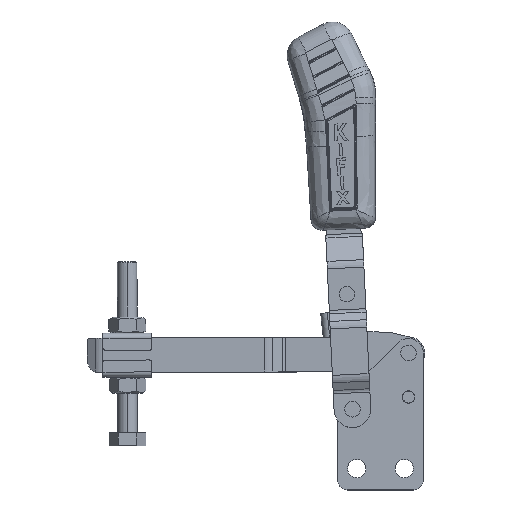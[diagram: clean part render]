
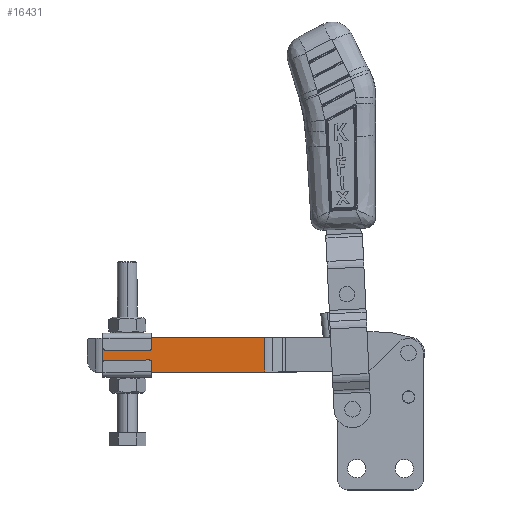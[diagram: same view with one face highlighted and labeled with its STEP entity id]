
A CAD part, top view. The second image highlights one B-rep face of the part: STEP entity #16431.
In plain terms, the highlighted planar face has unit normal (0, 0, 1) as drawn and (1, 0, 0) by its records, which use the part's own axes.
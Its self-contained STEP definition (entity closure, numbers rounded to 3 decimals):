
#636 = VERTEX_POINT ( 'NONE', #23842 ) ;
#1957 = DIRECTION ( 'NONE',  ( 0., 0., -1. ) ) ;
#2859 = CARTESIAN_POINT ( 'NONE',  ( 6.006, 22.76, 6.35 ) ) ;
#3509 = LINE ( 'NONE', #19727, #22526 ) ;
#3654 = VECTOR ( 'NONE', #10312, 1000. ) ;
#4943 = DIRECTION ( 'NONE',  ( 0., 1., 0. ) ) ;
#5798 = VERTEX_POINT ( 'NONE', #12346 ) ;
#5838 = FACE_OUTER_BOUND ( 'NONE', #19993, .T. ) ;
#6741 = VECTOR ( 'NONE', #1957, 1000. ) ;
#9995 = CARTESIAN_POINT ( 'NONE',  ( 6.006, 43.667, -7.65 ) ) ;
#10312 = DIRECTION ( 'NONE',  ( 0., 0., -1. ) ) ;
#10616 = CARTESIAN_POINT ( 'NONE',  ( 6.006, 22.76, -7.65 ) ) ;
#10743 = ORIENTED_EDGE ( 'NONE', *, *, #12139, .T. ) ;
#12139 = EDGE_CURVE ( 'NONE', #22073, #5798, #3509, .T. ) ;
#12170 = LINE ( 'NONE', #13038, #6741 ) ;
#12346 = CARTESIAN_POINT ( 'NONE',  ( 6.006, -43.377, 6.35 ) ) ;
#13038 = CARTESIAN_POINT ( 'NONE',  ( 6.006, -43.377, 6.35 ) ) ;
#14026 = CARTESIAN_POINT ( 'NONE',  ( 6.006, 41.2, 6.35 ) ) ;
#14254 = CARTESIAN_POINT ( 'NONE',  ( 6.006, 22.76, 6.35 ) ) ;
#15255 = EDGE_CURVE ( 'NONE', #5798, #636, #12170, .T. ) ;
#15524 = DIRECTION ( 'NONE',  ( 0., -1., 0. ) ) ;
#15907 = VECTOR ( 'NONE', #15524, 1000. ) ;
#15959 = DIRECTION ( 'NONE',  ( 1., 0., 0. ) ) ;
#16076 = ORIENTED_EDGE ( 'NONE', *, *, #21318, .F. ) ;
#16115 = DIRECTION ( 'NONE',  ( 0., -1., 0. ) ) ;
#16431 = ADVANCED_FACE ( 'NONE', ( #5838 ), #23270, .T. ) ;
#17007 = EDGE_CURVE ( 'NONE', #23332, #636, #20798, .T. ) ;
#18924 = LINE ( 'NONE', #2859, #3654 ) ;
#19727 = CARTESIAN_POINT ( 'NONE',  ( 6.006, 41.2, 6.35 ) ) ;
#19778 = AXIS2_PLACEMENT_3D ( 'NONE', #14026, #15959, #4943 ) ;
#19993 = EDGE_LOOP ( 'NONE', ( #23185, #16076, #10743, #20023 ) ) ;
#20023 = ORIENTED_EDGE ( 'NONE', *, *, #15255, .T. ) ;
#20798 = LINE ( 'NONE', #9995, #15907 ) ;
#21318 = EDGE_CURVE ( 'NONE', #22073, #23332, #18924, .T. ) ;
#22073 = VERTEX_POINT ( 'NONE', #14254 ) ;
#22526 = VECTOR ( 'NONE', #16115, 1000. ) ;
#23185 = ORIENTED_EDGE ( 'NONE', *, *, #17007, .F. ) ;
#23270 = PLANE ( 'NONE',  #19778 ) ;
#23332 = VERTEX_POINT ( 'NONE', #10616 ) ;
#23842 = CARTESIAN_POINT ( 'NONE',  ( 6.006, -43.377, -7.65 ) ) ;
